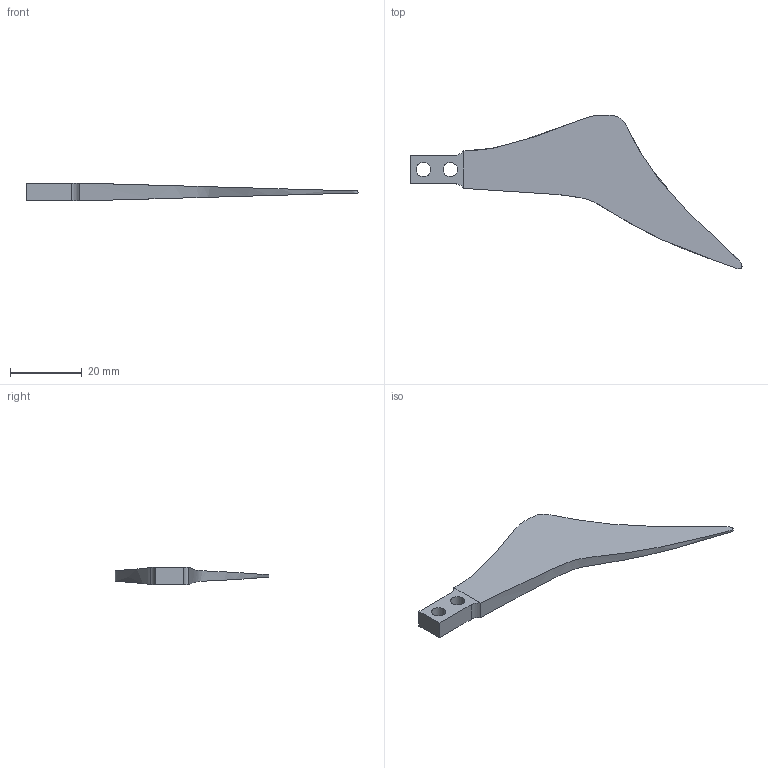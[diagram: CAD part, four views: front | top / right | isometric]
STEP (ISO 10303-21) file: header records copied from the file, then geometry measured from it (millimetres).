
FILE_DESCRIPTION(/* description */ (''),/* implementation_level */ '2;1');
FILE_NAME(/* name */ 'C:/Users/Diego/Downloads/9/Animalitos/Part2 v1.step',/* time_stamp */ '2019-06-14T13:36:03-04:00',/* author */ ('dcortesl1410'),/* organization */ (''),/* preprocessor_version */ 'ST-DEVELOPER v18',/* originating_system */ 'Autodesk Translation Framework v8.2.0.1029',/* authorisation */ '');
FILE_SCHEMA (('AUTOMOTIVE_DESIGN { 1 0 10303 214 3 1 1 }'));
Length unit declared in the file: millimetre
Products named in the file (1): Part2
Bounding box: 92.54 x 42.84 x 5 mm (x, y, z)
Volume: 4036.3 mm3; surface area: 3410.4 mm2
Topology: 1 solids, 1 shells, 13 faces, 29 edges, 18 vertices
Faces by surface type: plane 8, cylinder 4, bspline 1
Full cylindrical faces by diameter (mm): 4 x2
Entity records: 574 total; most frequent: CARTESIAN_POINT 242, DIRECTION 61, ORIENTED_EDGE 58, EDGE_CURVE 29, AXIS2_PLACEMENT_3D 21, LINE 19, VECTOR 19, VERTEX_POINT 18
